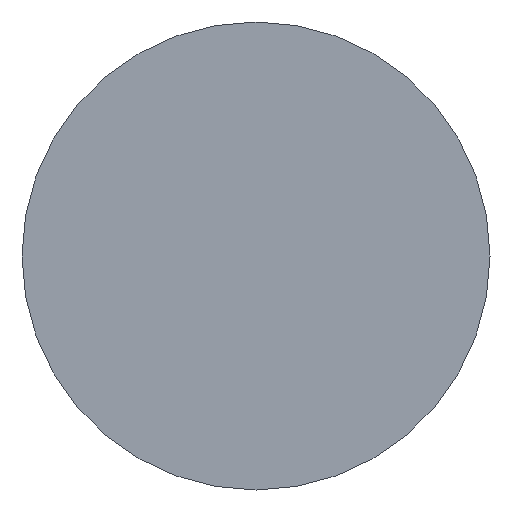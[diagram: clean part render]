
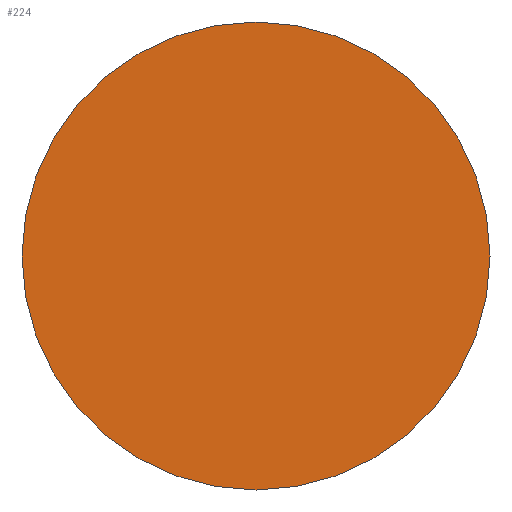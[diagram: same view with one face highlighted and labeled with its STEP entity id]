
A CAD part, left-side view. The second image highlights one B-rep face of the part: STEP entity #224.
In plain terms, the highlighted planar face has unit normal (-1, 0, 0).
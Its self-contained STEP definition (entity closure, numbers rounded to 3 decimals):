
#9 = DIRECTION ( 'NONE',  ( 0., 0., -1. ) ) ;
#11 = PLANE ( 'NONE',  #279 ) ;
#28 = EDGE_CURVE ( 'NONE', #251, #190, #289, .T. ) ;
#34 = CARTESIAN_POINT ( 'NONE',  ( 0., 0., 1.1 ) ) ;
#39 = CARTESIAN_POINT ( 'NONE',  ( 0., 0., 0. ) ) ;
#41 = DIRECTION ( 'NONE',  ( 1., 0., 0. ) ) ;
#46 = ORIENTED_EDGE ( 'NONE', *, *, #28, .T. ) ;
#59 = EDGE_LOOP ( 'NONE', ( #63, #46 ) ) ;
#61 = EDGE_CURVE ( 'NONE', #190, #251, #132, .T. ) ;
#63 = ORIENTED_EDGE ( 'NONE', *, *, #61, .T. ) ;
#75 = AXIS2_PLACEMENT_3D ( 'NONE', #287, #283, #270 ) ;
#83 = AXIS2_PLACEMENT_3D ( 'NONE', #105, #260, #111 ) ;
#105 = CARTESIAN_POINT ( 'NONE',  ( 0., 0., 0. ) ) ;
#111 = DIRECTION ( 'NONE',  ( 0., 0., 1. ) ) ;
#132 = CIRCLE ( 'NONE', #83, 1.1 ) ;
#190 = VERTEX_POINT ( 'NONE', #34 ) ;
#224 = ADVANCED_FACE ( 'NONE', ( #277 ), #11, .F. ) ;
#239 = CARTESIAN_POINT ( 'NONE',  ( 0., 0., -1.1 ) ) ;
#251 = VERTEX_POINT ( 'NONE', #239 ) ;
#260 = DIRECTION ( 'NONE',  ( -1., 0., 0. ) ) ;
#270 = DIRECTION ( 'NONE',  ( 0., 0., 1. ) ) ;
#277 = FACE_OUTER_BOUND ( 'NONE', #59, .T. ) ;
#279 = AXIS2_PLACEMENT_3D ( 'NONE', #39, #41, #9 ) ;
#283 = DIRECTION ( 'NONE',  ( -1., 0., 0. ) ) ;
#287 = CARTESIAN_POINT ( 'NONE',  ( 0., 0., 0. ) ) ;
#289 = CIRCLE ( 'NONE', #75, 1.1 ) ;
